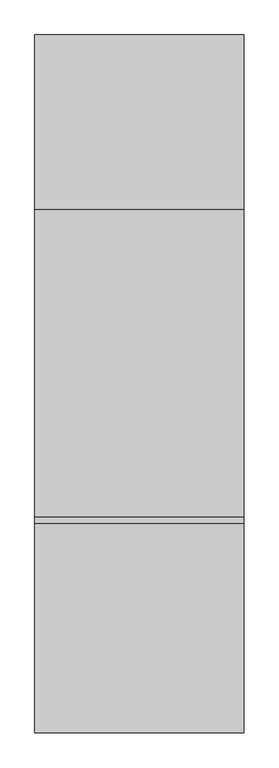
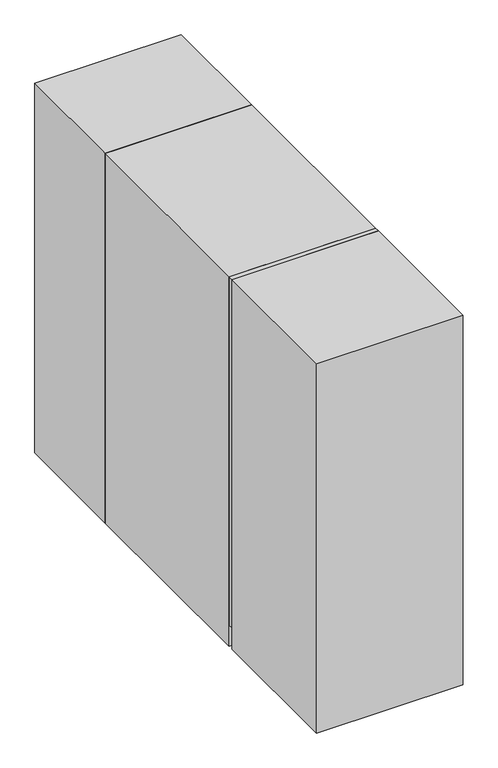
"""IFC4 building model written with IfcOpenShell, lengths in millimetres: proxy geometry, Трехфазный ИБП_ПАТРИОТ_СайберЭлектро : ПАТРИОТ-120Ш."""

from ifc_helpers import new_model, si_unit, frame, origin, origin_with_axes, place, context, project, spatial, polyline, outline, extrude, faceted_brep, source, transform, mapped, element, save


def electrical_equipment_3875015f(model_context):
    return source(origin(), model_context, "Body", "SolidModel", [
        extrude(outline(polyline([(-300.0, 0.0), (-300.0, 500.0), (300.0, 500.0), (300.0, 0.0), (-300.0, 0.0)])), origin_with_axes(), (0.0, 0.0, 1.0), 1600.0),
        extrude(outline(polyline([(-300.0, -900.0), (300.0, -900.0), (300.0, -1500.0), (-300.0, -1500.0), (-300.0, -900.0)])), origin_with_axes(), (0.0, 0.0, 1.0), 1600.0),
        faceted_brep([(300.0, 0.0, 1600.0), (-300.0, 0.0, 1600.0), (-300.0, -880.0, 1600.0), (300.0, -880.0, 1600.0), (300.0, 0.0, 0.0), (300.0, -880.0, 0.0), (-300.0, -880.0, 0.0), (-300.0, 0.0, 0.0), (-295.0, 0.0, 142.0), (295.0, 0.0, 142.0), (295.0, 0.0, 946.0), (-295.0, 0.0, 946.0), (-295.0, -50.0, 142.0), (-295.0, -50.0, 946.0), (295.0, -50.0, 946.0), (295.0, -50.0, 142.0)], [[[0, 1, 2, 3]], [[4, 5, 6, 7]], [[1, 0, 4, 7], [8, 9, 10, 11]], [[2, 1, 7, 6]], [[3, 2, 6, 5]], [[0, 3, 5, 4]], [[12, 13, 14, 15]], [[12, 15, 9, 8]], [[15, 14, 10, 9]], [[14, 13, 11, 10]], [[13, 12, 8, 11]]]),
        extrude(outline(polyline([(300.0, -880.0), (300.0, -900.0), (-300.0, -900.0), (-300.0, -880.0), (300.0, -880.0)])), frame((0.0, 0.0, 92.0), z_axis=(0.0, 0.0, 1.0), x_axis=(1.0, 0.0, 0.0)), (0.0, 0.0, 1.0), 1508.0),
    ])


if __name__ == "__main__":
    model = new_model("IFC4")
    model_context = context("Model", 3, world=origin())
    ifc_project = project(units=[si_unit("LENGTHUNIT", "METRE", prefix="MILLI")], contexts=[model_context])
    site = spatial("IfcSite", under=ifc_project)
    building = spatial("IfcBuilding", under=site)
    placement = place(None, origin())
    electrical_equipment_shape = electrical_equipment_3875015f(model_context)
    element("IfcBuildingElementProxy", 1, Name="Трехфазный ИБП_ПАТРИОТ_СайберЭлектро : ПАТРИОТ-120Ш", ObjectType="Трехфазный ИБП_ПАТРИОТ_СайберЭлектро : ПАТРИОТ-120Ш", at=placement, inside=building, context=model_context, shape_type="MappedRepresentation", body=[
        mapped(electrical_equipment_shape, transform((0.0, 0.0, 0.0), x_axis=(1.0, 0.0, 0.0), y_axis=(0.0, 1.0, 0.0), z_axis=(0.0, 0.0, 1.0))),
    ])
    save(model, "model.ifc")
